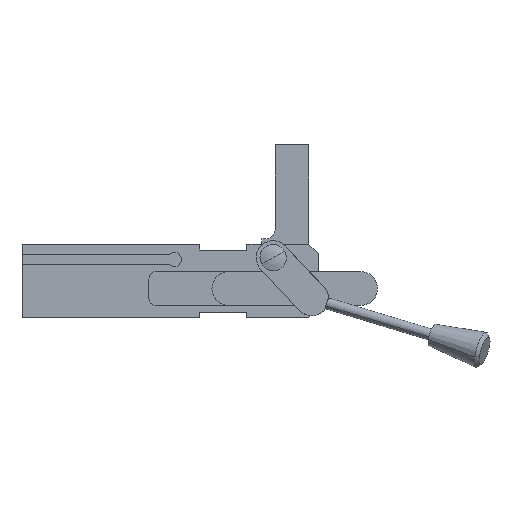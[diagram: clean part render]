
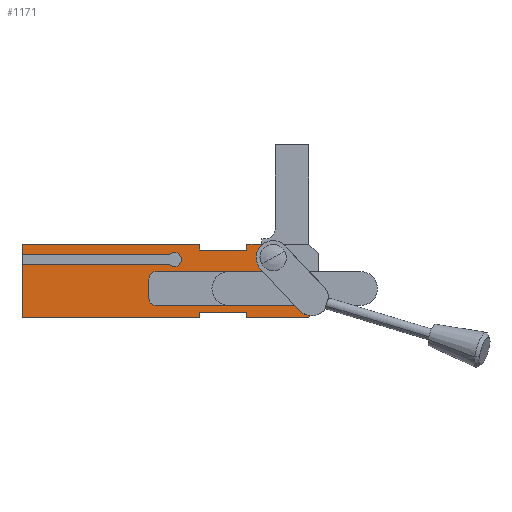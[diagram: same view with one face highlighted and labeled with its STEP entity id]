
A CAD part, top view. The second image highlights one B-rep face of the part: STEP entity #1171.
In plain terms, the highlighted planar face has unit normal (0, 0, 1).
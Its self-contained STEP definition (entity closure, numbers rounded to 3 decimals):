
#991=AXIS2_PLACEMENT_3D('Plane Axis2P3D',#988,#989,#990) ;
#1037=AXIS2_PLACEMENT_3D('Circle Axis2P3D',#1035,#1036,$) ;
#1044=AXIS2_PLACEMENT_3D('Circle Axis2P3D',#1042,#1043,$) ;
#1084=AXIS2_PLACEMENT_3D('Circle Axis2P3D',#1082,#1083,$) ;
#1105=AXIS2_PLACEMENT_3D('Circle Axis2P3D',#1103,#1104,$) ;
#1119=AXIS2_PLACEMENT_3D('Circle Axis2P3D',#1117,#1118,$) ;
#1140=AXIS2_PLACEMENT_3D('Circle Axis2P3D',#1138,#1139,$) ;
#491=CARTESIAN_POINT('Vertex',(-133.5,-32.,15.)) ;
#505=CARTESIAN_POINT('Vertex',(-39.,-32.,15.)) ;
#508=CARTESIAN_POINT('Line Origine',(-86.25,-32.,15.)) ;
#561=CARTESIAN_POINT('Line Origine',(-133.5,-17.8,15.)) ;
#565=CARTESIAN_POINT('Vertex',(-133.5,-3.6,15.)) ;
#614=CARTESIAN_POINT('Vertex',(-133.5,1.6,15.)) ;
#617=CARTESIAN_POINT('Line Origine',(-133.5,4.3,15.)) ;
#621=CARTESIAN_POINT('Vertex',(-133.5,7.,15.)) ;
#966=CARTESIAN_POINT('Vertex',(-39.,-29.,15.)) ;
#969=CARTESIAN_POINT('Line Origine',(-39.,-30.5,15.)) ;
#988=CARTESIAN_POINT('Axis2P3D Location',(0.,0.,15.)) ;
#993=CARTESIAN_POINT('Line Origine',(-9.828,7.,15.)) ;
#997=CARTESIAN_POINT('Vertex',(-5.657,7.,15.)) ;
#999=CARTESIAN_POINT('Vertex',(-14.,7.,15.)) ;
#1002=CARTESIAN_POINT('Line Origine',(-14.,5.5,15.)) ;
#1006=CARTESIAN_POINT('Vertex',(-14.,4.,15.)) ;
#1009=CARTESIAN_POINT('Line Origine',(-26.5,4.,15.)) ;
#1013=CARTESIAN_POINT('Vertex',(-39.,4.,15.)) ;
#1016=CARTESIAN_POINT('Line Origine',(-39.,5.5,15.)) ;
#1020=CARTESIAN_POINT('Vertex',(-39.,7.,15.)) ;
#1023=CARTESIAN_POINT('Line Origine',(-86.25,7.,15.)) ;
#1028=CARTESIAN_POINT('Line Origine',(-94.351,1.6,15.)) ;
#1032=CARTESIAN_POINT('Vertex',(-55.202,1.6,15.)) ;
#1035=CARTESIAN_POINT('Axis2P3D Location',(-52.5,-1.,15.)) ;
#1039=CARTESIAN_POINT('Vertex',(-48.75,-1.,15.)) ;
#1042=CARTESIAN_POINT('Axis2P3D Location',(-52.5,-1.,15.)) ;
#1046=CARTESIAN_POINT('Vertex',(-55.202,-3.6,15.)) ;
#1049=CARTESIAN_POINT('Line Origine',(-94.351,-3.6,15.)) ;
#1054=CARTESIAN_POINT('Line Origine',(-26.5,-29.,15.)) ;
#1058=CARTESIAN_POINT('Vertex',(-14.,-29.,15.)) ;
#1061=CARTESIAN_POINT('Line Origine',(-14.,-30.5,15.)) ;
#1065=CARTESIAN_POINT('Vertex',(-14.,-32.,15.)) ;
#1068=CARTESIAN_POINT('Line Origine',(2.5,-32.,15.)) ;
#1072=CARTESIAN_POINT('Vertex',(19.,-32.,15.)) ;
#1075=CARTESIAN_POINT('Line Origine',(19.569,-31.431,15.)) ;
#1079=CARTESIAN_POINT('Vertex',(20.137,-30.863,15.)) ;
#1082=CARTESIAN_POINT('Axis2P3D Location',(20.534,-21.871,15.)) ;
#1086=CARTESIAN_POINT('Vertex',(13.973,-28.032,15.)) ;
#1089=CARTESIAN_POINT('Line Origine',(12.831,-26.816,15.)) ;
#1093=CARTESIAN_POINT('Vertex',(11.69,-25.6,15.)) ;
#1096=CARTESIAN_POINT('Line Origine',(-25.155,-25.6,15.)) ;
#1100=CARTESIAN_POINT('Vertex',(-62.,-25.6,15.)) ;
#1103=CARTESIAN_POINT('Axis2P3D Location',(-62.,-21.6,15.)) ;
#1107=CARTESIAN_POINT('Vertex',(-66.,-21.6,15.)) ;
#1110=CARTESIAN_POINT('Line Origine',(-66.,-16.5,15.)) ;
#1114=CARTESIAN_POINT('Vertex',(-66.,-11.4,15.)) ;
#1117=CARTESIAN_POINT('Axis2P3D Location',(-62.,-11.4,15.)) ;
#1121=CARTESIAN_POINT('Vertex',(-62.,-7.4,15.)) ;
#1124=CARTESIAN_POINT('Line Origine',(-33.699,-7.4,15.)) ;
#1128=CARTESIAN_POINT('Vertex',(-5.397,-7.4,15.)) ;
#1131=CARTESIAN_POINT('Line Origine',(-5.979,-6.78,15.)) ;
#1135=CARTESIAN_POINT('Vertex',(-6.561,-6.16,15.)) ;
#1138=CARTESIAN_POINT('Axis2P3D Location',(0.,0.,15.)) ;
#509=DIRECTION('Vector Direction',(1.,0.,0.)) ;
#562=DIRECTION('Vector Direction',(0.,-1.,0.)) ;
#618=DIRECTION('Vector Direction',(0.,-1.,0.)) ;
#970=DIRECTION('Vector Direction',(0.,1.,0.)) ;
#989=DIRECTION('Axis2P3D Direction',(0.,0.,1.)) ;
#990=DIRECTION('Axis2P3D XDirection',(1.,0.,0.)) ;
#994=DIRECTION('Vector Direction',(-1.,0.,0.)) ;
#1003=DIRECTION('Vector Direction',(0.,-1.,0.)) ;
#1010=DIRECTION('Vector Direction',(-1.,0.,0.)) ;
#1017=DIRECTION('Vector Direction',(0.,1.,0.)) ;
#1024=DIRECTION('Vector Direction',(-1.,0.,0.)) ;
#1029=DIRECTION('Vector Direction',(1.,0.,0.)) ;
#1036=DIRECTION('Axis2P3D Direction',(0.,0.,1.)) ;
#1043=DIRECTION('Axis2P3D Direction',(0.,0.,1.)) ;
#1050=DIRECTION('Vector Direction',(1.,0.,0.)) ;
#1055=DIRECTION('Vector Direction',(1.,0.,0.)) ;
#1062=DIRECTION('Vector Direction',(0.,-1.,0.)) ;
#1069=DIRECTION('Vector Direction',(1.,0.,0.)) ;
#1076=DIRECTION('Vector Direction',(0.707,0.707,0.)) ;
#1083=DIRECTION('Axis2P3D Direction',(0.,0.,1.)) ;
#1090=DIRECTION('Vector Direction',(-0.684,0.729,0.)) ;
#1097=DIRECTION('Vector Direction',(-1.,0.,0.)) ;
#1104=DIRECTION('Axis2P3D Direction',(0.,0.,1.)) ;
#1111=DIRECTION('Vector Direction',(0.,1.,0.)) ;
#1118=DIRECTION('Axis2P3D Direction',(0.,0.,1.)) ;
#1125=DIRECTION('Vector Direction',(1.,0.,0.)) ;
#1132=DIRECTION('Vector Direction',(-0.684,0.729,0.)) ;
#1139=DIRECTION('Axis2P3D Direction',(0.,0.,1.)) ;
#510=VECTOR('Line Direction',#509,1.) ;
#563=VECTOR('Line Direction',#562,1.) ;
#619=VECTOR('Line Direction',#618,1.) ;
#971=VECTOR('Line Direction',#970,1.) ;
#995=VECTOR('Line Direction',#994,1.) ;
#1004=VECTOR('Line Direction',#1003,1.) ;
#1011=VECTOR('Line Direction',#1010,1.) ;
#1018=VECTOR('Line Direction',#1017,1.) ;
#1025=VECTOR('Line Direction',#1024,1.) ;
#1030=VECTOR('Line Direction',#1029,1.) ;
#1051=VECTOR('Line Direction',#1050,1.) ;
#1056=VECTOR('Line Direction',#1055,1.) ;
#1063=VECTOR('Line Direction',#1062,1.) ;
#1070=VECTOR('Line Direction',#1069,1.) ;
#1077=VECTOR('Line Direction',#1076,1.) ;
#1091=VECTOR('Line Direction',#1090,1.) ;
#1098=VECTOR('Line Direction',#1097,1.) ;
#1112=VECTOR('Line Direction',#1111,1.) ;
#1126=VECTOR('Line Direction',#1125,1.) ;
#1133=VECTOR('Line Direction',#1132,1.) ;
#1144=ORIENTED_EDGE('',*,*,#1001,.T.) ;
#1145=ORIENTED_EDGE('',*,*,#1008,.T.) ;
#1146=ORIENTED_EDGE('',*,*,#1015,.T.) ;
#1147=ORIENTED_EDGE('',*,*,#1022,.T.) ;
#1148=ORIENTED_EDGE('',*,*,#1027,.T.) ;
#1149=ORIENTED_EDGE('',*,*,#623,.T.) ;
#1150=ORIENTED_EDGE('',*,*,#1034,.T.) ;
#1151=ORIENTED_EDGE('',*,*,#1041,.F.) ;
#1152=ORIENTED_EDGE('',*,*,#1048,.F.) ;
#1153=ORIENTED_EDGE('',*,*,#1053,.F.) ;
#1154=ORIENTED_EDGE('',*,*,#567,.T.) ;
#1155=ORIENTED_EDGE('',*,*,#512,.T.) ;
#1156=ORIENTED_EDGE('',*,*,#973,.T.) ;
#1157=ORIENTED_EDGE('',*,*,#1060,.T.) ;
#1158=ORIENTED_EDGE('',*,*,#1067,.T.) ;
#1159=ORIENTED_EDGE('',*,*,#1074,.T.) ;
#1160=ORIENTED_EDGE('',*,*,#1081,.T.) ;
#1161=ORIENTED_EDGE('',*,*,#1088,.F.) ;
#1162=ORIENTED_EDGE('',*,*,#1095,.F.) ;
#1163=ORIENTED_EDGE('',*,*,#1102,.F.) ;
#1164=ORIENTED_EDGE('',*,*,#1109,.F.) ;
#1165=ORIENTED_EDGE('',*,*,#1116,.F.) ;
#1166=ORIENTED_EDGE('',*,*,#1123,.F.) ;
#1167=ORIENTED_EDGE('',*,*,#1130,.F.) ;
#1168=ORIENTED_EDGE('',*,*,#1137,.F.) ;
#1169=ORIENTED_EDGE('',*,*,#1142,.F.) ;
#1171=ADVANCED_FACE('PKS_20_1_ZL_A18_T03_TUENKERS',(#1170),#992,.T.) ;
#1038=CIRCLE('generated circle',#1037,3.75) ;
#1045=CIRCLE('generated circle',#1044,3.75) ;
#1085=CIRCLE('generated circle',#1084,9.) ;
#1106=CIRCLE('generated circle',#1105,4.) ;
#1120=CIRCLE('generated circle',#1119,4.) ;
#1141=CIRCLE('generated circle',#1140,9.) ;
#512=EDGE_CURVE('',#492,#506,#511,.T.) ;
#567=EDGE_CURVE('',#566,#492,#564,.T.) ;
#623=EDGE_CURVE('',#622,#615,#620,.T.) ;
#973=EDGE_CURVE('',#506,#967,#972,.T.) ;
#1001=EDGE_CURVE('',#998,#1000,#996,.T.) ;
#1008=EDGE_CURVE('',#1000,#1007,#1005,.T.) ;
#1015=EDGE_CURVE('',#1007,#1014,#1012,.T.) ;
#1022=EDGE_CURVE('',#1014,#1021,#1019,.T.) ;
#1027=EDGE_CURVE('',#1021,#622,#1026,.T.) ;
#1034=EDGE_CURVE('',#615,#1033,#1031,.T.) ;
#1041=EDGE_CURVE('',#1040,#1033,#1038,.T.) ;
#1048=EDGE_CURVE('',#1047,#1040,#1045,.T.) ;
#1053=EDGE_CURVE('',#566,#1047,#1052,.T.) ;
#1060=EDGE_CURVE('',#967,#1059,#1057,.T.) ;
#1067=EDGE_CURVE('',#1059,#1066,#1064,.T.) ;
#1074=EDGE_CURVE('',#1066,#1073,#1071,.T.) ;
#1081=EDGE_CURVE('',#1073,#1080,#1078,.T.) ;
#1088=EDGE_CURVE('',#1087,#1080,#1085,.T.) ;
#1095=EDGE_CURVE('',#1094,#1087,#1092,.F.) ;
#1102=EDGE_CURVE('',#1101,#1094,#1099,.F.) ;
#1109=EDGE_CURVE('',#1108,#1101,#1106,.T.) ;
#1116=EDGE_CURVE('',#1115,#1108,#1113,.F.) ;
#1123=EDGE_CURVE('',#1122,#1115,#1120,.T.) ;
#1130=EDGE_CURVE('',#1129,#1122,#1127,.F.) ;
#1137=EDGE_CURVE('',#1136,#1129,#1134,.F.) ;
#1142=EDGE_CURVE('',#998,#1136,#1141,.T.) ;
#1143=EDGE_LOOP('',(#1144,#1145,#1146,#1147,#1148,#1149,#1150,#1151,#1152,#1153,#1154,#1155,#1156,#1157,#1158,#1159,#1160,#1161,#1162,#1163,#1164,#1165,#1166,#1167,#1168,#1169)) ;
#1170=FACE_OUTER_BOUND('',#1143,.T.) ;
#511=LINE('Line',#508,#510) ;
#564=LINE('Line',#561,#563) ;
#620=LINE('Line',#617,#619) ;
#972=LINE('Line',#969,#971) ;
#996=LINE('Line',#993,#995) ;
#1005=LINE('Line',#1002,#1004) ;
#1012=LINE('Line',#1009,#1011) ;
#1019=LINE('Line',#1016,#1018) ;
#1026=LINE('Line',#1023,#1025) ;
#1031=LINE('Line',#1028,#1030) ;
#1052=LINE('Line',#1049,#1051) ;
#1057=LINE('Line',#1054,#1056) ;
#1064=LINE('Line',#1061,#1063) ;
#1071=LINE('Line',#1068,#1070) ;
#1078=LINE('Line',#1075,#1077) ;
#1092=LINE('Line',#1089,#1091) ;
#1099=LINE('Line',#1096,#1098) ;
#1113=LINE('Line',#1110,#1112) ;
#1127=LINE('Line',#1124,#1126) ;
#1134=LINE('Line',#1131,#1133) ;
#992=PLANE('Plane',#991) ;
#492=VERTEX_POINT('',#491) ;
#506=VERTEX_POINT('',#505) ;
#566=VERTEX_POINT('',#565) ;
#615=VERTEX_POINT('',#614) ;
#622=VERTEX_POINT('',#621) ;
#967=VERTEX_POINT('',#966) ;
#998=VERTEX_POINT('',#997) ;
#1000=VERTEX_POINT('',#999) ;
#1007=VERTEX_POINT('',#1006) ;
#1014=VERTEX_POINT('',#1013) ;
#1021=VERTEX_POINT('',#1020) ;
#1033=VERTEX_POINT('',#1032) ;
#1040=VERTEX_POINT('',#1039) ;
#1047=VERTEX_POINT('',#1046) ;
#1059=VERTEX_POINT('',#1058) ;
#1066=VERTEX_POINT('',#1065) ;
#1073=VERTEX_POINT('',#1072) ;
#1080=VERTEX_POINT('',#1079) ;
#1087=VERTEX_POINT('',#1086) ;
#1094=VERTEX_POINT('',#1093) ;
#1101=VERTEX_POINT('',#1100) ;
#1108=VERTEX_POINT('',#1107) ;
#1115=VERTEX_POINT('',#1114) ;
#1122=VERTEX_POINT('',#1121) ;
#1129=VERTEX_POINT('',#1128) ;
#1136=VERTEX_POINT('',#1135) ;
